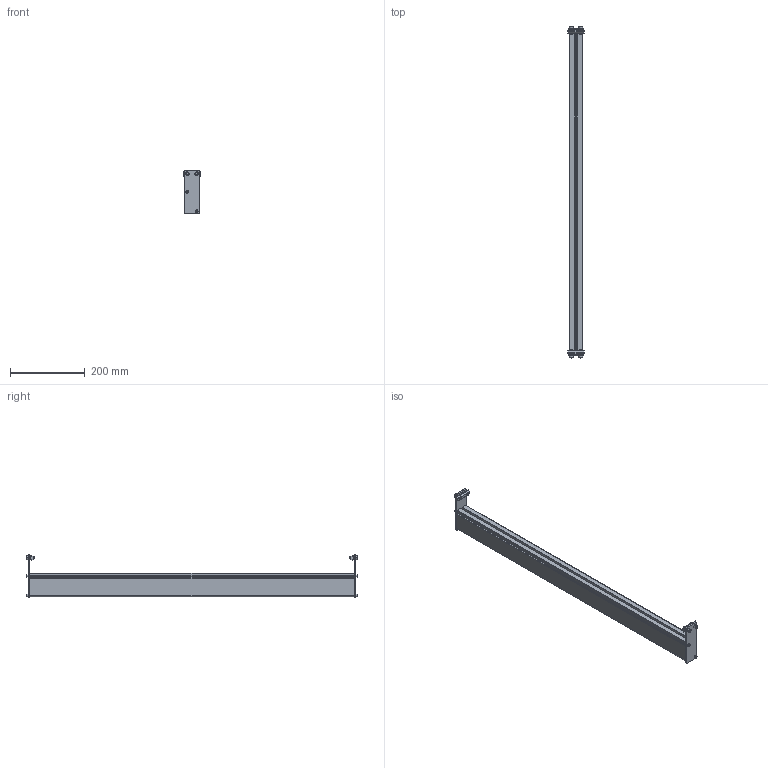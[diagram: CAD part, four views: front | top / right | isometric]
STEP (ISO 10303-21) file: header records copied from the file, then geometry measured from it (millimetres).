
FILE_DESCRIPTION((''),'2;1');
FILE_NAME('350974-34_ASM','2023-03-22T',('jenni.wallner'),(''),'PRO/ENGINEER BY PARAMETRIC TECHNOLOGY CORPORATION, 2012420','PRO/ENGINEER BY PARAMETRIC TECHNOLOGY CORPORATION, 2012420','');
FILE_SCHEMA(('CONFIG_CONTROL_DESIGN'));
Length unit declared in the file: inch
Products named in the file (6): 350979-03417; 350978; 200830M; 920616M; 920416M; 350974-34_ASM
Assembly tree (13 placements, depth 2):
  350974-34_ASM
    350979-03417
    350978  x2
    200830M  x2
    920616M  x4
    920416M  x4
Bounding box: 44.45 x 889.01 x 116.98 mm (x, y, z)
Volume: 734437.9 mm3; surface area: 468722.2 mm2
Topology: 13 solids, 17 shells, 342 faces, 868 edges, 568 vertices
Faces by surface type: plane 168, cylinder 142, cone 32
Entity records: 5990 total; most frequent: DIRECTION 1076, CARTESIAN_POINT 1015, ORIENTED_EDGE 972, EDGE_CURVE 490, AXIS2_PLACEMENT_3D 385, VERTEX_POINT 324, VECTOR 306, LINE 306
